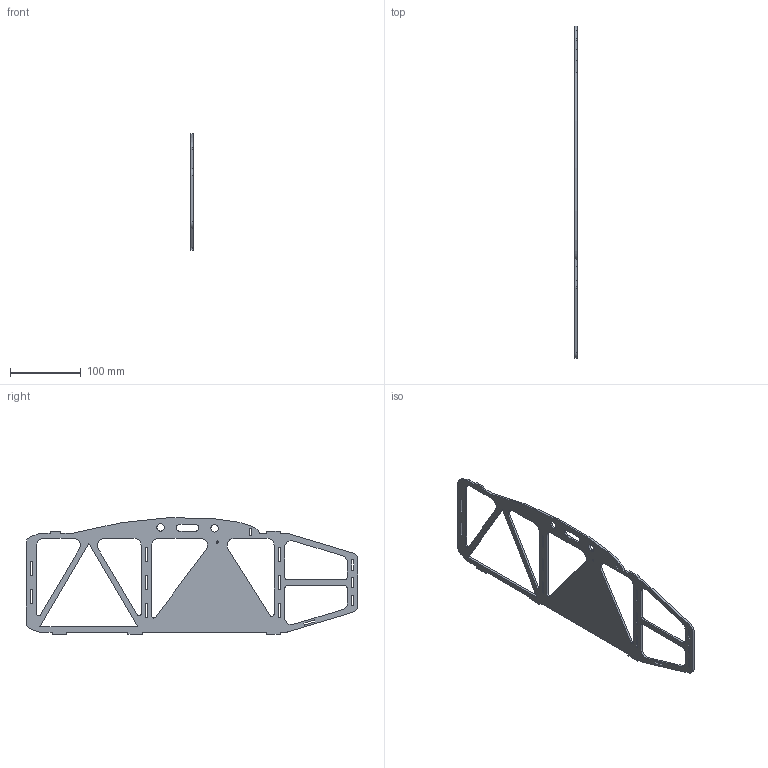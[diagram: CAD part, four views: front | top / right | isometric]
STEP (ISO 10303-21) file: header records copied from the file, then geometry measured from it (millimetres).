
FILE_DESCRIPTION(/* description */ (''),/* implementation_level */ '2;1');
FILE_NAME(/* name */ 'Side 2 v68.step',/* time_stamp */ '2023-09-02T21:55:13+03:00',/* author */ (''),/* organization */ (''),/* preprocessor_version */ 'ST-DEVELOPER v20',/* originating_system */ 'Autodesk Translation Framework v12.9.0.99',/* authorisation */ '');
FILE_SCHEMA (('AUTOMOTIVE_DESIGN { 1 0 10303 214 3 1 1 }'));
Length unit declared in the file: millimetre
Products named in the file (1): Side 2
Bounding box: 3 x 470.5 x 164.89 mm (x, y, z)
Volume: 97504.2 mm3; surface area: 77040 mm2
Topology: 1 solids, 1 shells, 142 faces, 420 edges, 280 vertices
Faces by surface type: plane 108, cylinder 33, bspline 1
Full cylindrical faces by diameter (mm): 3 x1, 10.5 x2
Entity records: 6042 total; most frequent: CARTESIAN_POINT 2060, ORIENTED_EDGE 840, DIRECTION 766, EDGE_CURVE 420, LINE 350, VECTOR 350, VERTEX_POINT 280, AXIS2_PLACEMENT_3D 208
